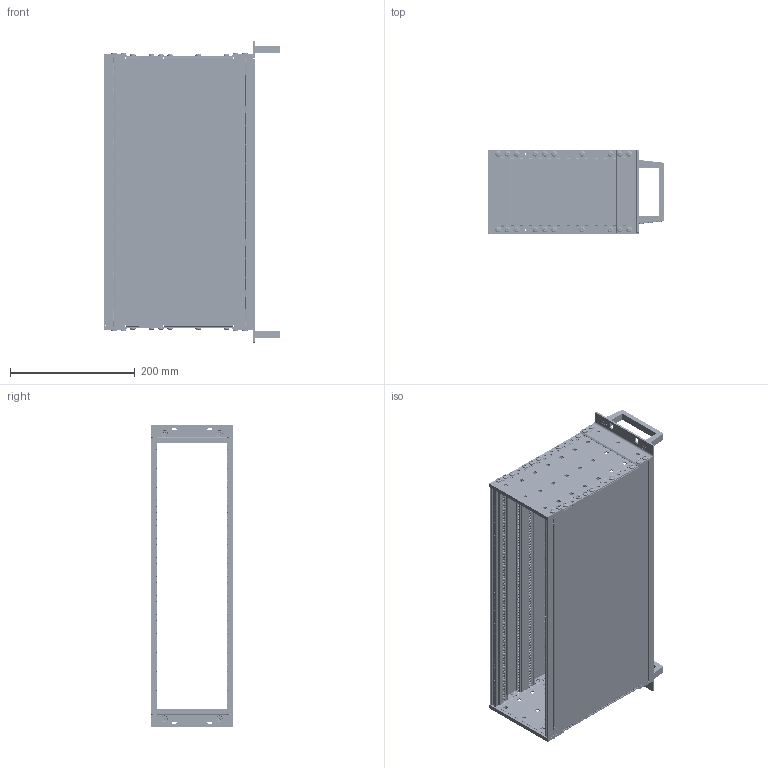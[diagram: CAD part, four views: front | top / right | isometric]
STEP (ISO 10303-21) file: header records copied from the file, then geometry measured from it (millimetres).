
FILE_DESCRIPTION (( 'STEP AP203' ), '1' );
FILE_NAME ('BEG 3U 84TE 235 祥籵瑞.STEP', '2026-02-05T10:31:40', ( '' ), ( '' ), 'SwSTEP 2.0', 'SolidWorks 2013', '' );
FILE_SCHEMA (( 'CONFIG_CONTROL_DESIGN' ));
Length unit declared in the file: millimetre
Products named in the file (92): 1_1_15; 1_1_21; 1_1_18; 1_1_36; 1_4; 1_1_6; 1_10; 1_1_29; 1_16; 1_1_41; 1_1_11; BT-3U衵ヶ楊擘; 1_25; 1_1_37; 009028401-BEG前梁（84TE）; 1_35; 1004229梅花盘头螺钉M4×14钢镀锌带凸点; 1_24; 1_1_7; 1_31; 1_22; BT 3U 235耜啣; 1_14; 1013007; 1004234-M4×6梅花盘头螺钉（带凸点）; 1_26; 1_1_8; 1_39; 1_19; BT-3U酘ヶ楊擘; 1_1_33; 1_21; 1_11; 1_1_32; 1_18; 84TE-BT裔啣そ敖銅24560245; 1_36; 1; 24560235-BT前梁屏蔽簧; 1_1_25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
Assembly tree (151 placements, depth 3):
  BEG 3U 84TE 235 祥籵瑞
    BT 3U 235耜啣  x2
    009028401-BEG前梁（84TE）  x4
    84TE邧謂綴褽-34560784  x2
    BT-3U酘ヶ楊擘
    BT-3U衵ヶ楊擘
    24564199_2
    24564199_1
    84TE-2X5蹟謂沭1011013  x6
    24560235-BT前梁屏蔽簧  x4
      1_1
      1_1_2
      1_1_3
      1_1_4
      1_1_5
      1_1_6
      1_1_7
      1_1_8
      1_1_9
      1_1_10
      1_1_11
      1_1_12
      1_1_13
      1_1_14
      1_1_15
      1_1_16
      1_1_17
      1_1_18
      1_1_19
      1_1_20
      1_1_21
      1_1_22
      1_1_23
      1_1_24
      1_1_25
      1_1_26
      1_1_27
      1_1_28
      1_1_29
      1_1_30
      1_1_31
      1_1_32
      1_1_33
      1_1_34
      1_1_35
      1_1_36
      1_1_37
      1_1_38
      1_1_39
      1_1_40
      1_1_41
    1013007  x2
    1004229梅花盘头螺钉M4×14钢镀锌带凸点  x24
    1004234-M4×6梅花盘头螺钉（带凸点）  x16
    源參忒3u  x2
    M5-10參忒隊  x4
    84TE-BT裔啣そ敖銅24560245  x4
      1
      1_2
      1_3
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Bounding box: 282 x 132.55 x 482.6 mm (x, y, z)
Volume: 804281.5 mm3; surface area: 1117446.4 mm2
Topology: 368 solids, 368 shells, 42054 faces, 119542 edges, 78070 vertices
Faces by surface type: plane 22344, cylinder 16698, bspline 2308, cone 640, sphere 56, torus 8
Entity records: 401493 total; most frequent: CARTESIAN_POINT 90064, ORIENTED_EDGE 64704, DIRECTION 60625, EDGE_CURVE 32352, LINE 21959, VECTOR 21959, VERTEX_POINT 21188, AXIS2_PLACEMENT_3D 19333
